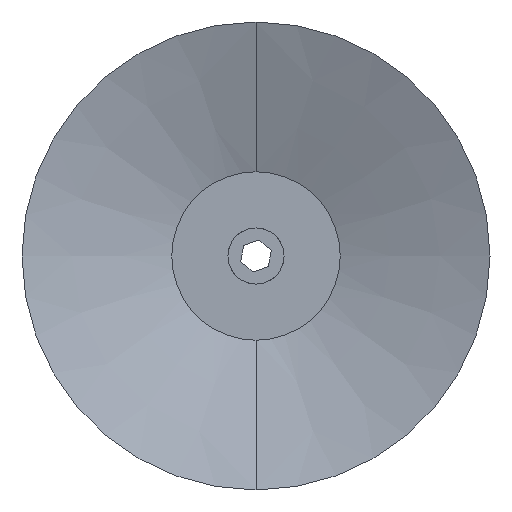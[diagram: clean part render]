
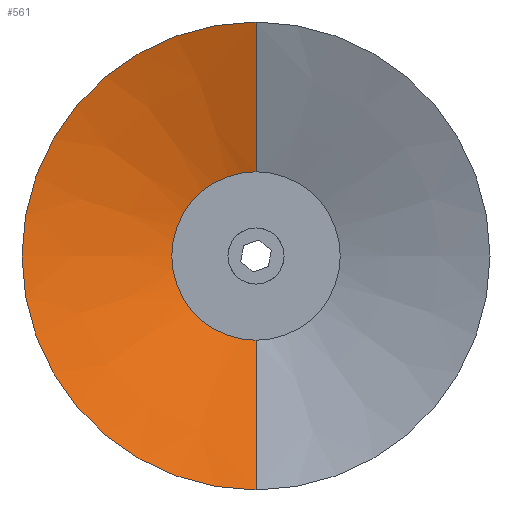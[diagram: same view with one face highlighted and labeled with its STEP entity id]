
A CAD part, front view. The second image highlights one B-rep face of the part: STEP entity #561.
In plain terms, the highlighted conical face has half-angle 70.784 degrees and reference radius 9 mm.
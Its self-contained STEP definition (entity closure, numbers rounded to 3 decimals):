
#43 = CIRCLE ( 'NONE', #687, 9. ) ;
#44 = CIRCLE ( 'NONE', #688, 25. ) ;
#46 = LINE ( 'NONE', #1103, #48 ) ;
#48 = VECTOR ( 'NONE', #1109, 1000. ) ;
#49 = LINE ( 'NONE', #1108, #51 ) ;
#51 = VECTOR ( 'NONE', #1104, 1000. ) ;
#178 = VERTEX_POINT ( 'NONE', #288 ) ;
#190 = VERTEX_POINT ( 'NONE', #273 ) ;
#273 = CARTESIAN_POINT ( 'NONE',  ( 0., 0., 25. ) ) ;
#288 = CARTESIAN_POINT ( 'NONE',  ( 0., 5.577, -9. ) ) ;
#472 = CARTESIAN_POINT ( 'NONE',  ( 0., 0., -25. ) ) ;
#480 = DIRECTION ( 'NONE',  ( 0., 0., -1. ) ) ;
#485 = DIRECTION ( 'NONE',  ( 0., -1., 0. ) ) ;
#488 = CARTESIAN_POINT ( 'NONE',  ( 0., 5.577, 0. ) ) ;
#508 = CARTESIAN_POINT ( 'NONE',  ( 0., 5.577, 9. ) ) ;
#561 = ADVANCED_FACE ( 'NONE', ( #937 ), #944, .F. ) ;
#609 = EDGE_LOOP ( 'NONE', ( #763, #780, #795, #738 ) ) ;
#628 = VERTEX_POINT ( 'NONE', #472 ) ;
#631 = VERTEX_POINT ( 'NONE', #508 ) ;
#659 = AXIS2_PLACEMENT_3D ( 'NONE', #488, #485, #480 ) ;
#687 = AXIS2_PLACEMENT_3D ( 'NONE', #1105, #1106, #1107 ) ;
#688 = AXIS2_PLACEMENT_3D ( 'NONE', #1112, #1113, #1114 ) ;
#738 = ORIENTED_EDGE ( 'NONE', *, *, #1042, .F. ) ;
#763 = ORIENTED_EDGE ( 'NONE', *, *, #1039, .F. ) ;
#780 = ORIENTED_EDGE ( 'NONE', *, *, #1040, .T. ) ;
#795 = ORIENTED_EDGE ( 'NONE', *, *, #1041, .T. ) ;
#937 = FACE_OUTER_BOUND ( 'NONE', #609, .T. ) ;
#944 = CONICAL_SURFACE ( 'NONE', #659, 9., 1.235 ) ;
#1039 = EDGE_CURVE ( 'NONE', #631, #178, #43, .T. ) ;
#1040 = EDGE_CURVE ( 'NONE', #631, #190, #46, .T. ) ;
#1041 = EDGE_CURVE ( 'NONE', #190, #628, #44, .T. ) ;
#1042 = EDGE_CURVE ( 'NONE', #178, #628, #49, .T. ) ;
#1103 = CARTESIAN_POINT ( 'NONE',  ( 0., 5.577, 9. ) ) ;
#1104 = DIRECTION ( 'NONE',  ( 0., -0.329, -0.944 ) ) ;
#1105 = CARTESIAN_POINT ( 'NONE',  ( 0., 5.577, 0. ) ) ;
#1106 = DIRECTION ( 'NONE',  ( 0., -1., 0. ) ) ;
#1107 = DIRECTION ( 'NONE',  ( 0., 0., -1. ) ) ;
#1108 = CARTESIAN_POINT ( 'NONE',  ( 0., 5.577, -9. ) ) ;
#1109 = DIRECTION ( 'NONE',  ( 0., -0.329, 0.944 ) ) ;
#1112 = CARTESIAN_POINT ( 'NONE',  ( 0., 0., 0. ) ) ;
#1113 = DIRECTION ( 'NONE',  ( 0., -1., 0. ) ) ;
#1114 = DIRECTION ( 'NONE',  ( 0., 0., -1. ) ) ;
